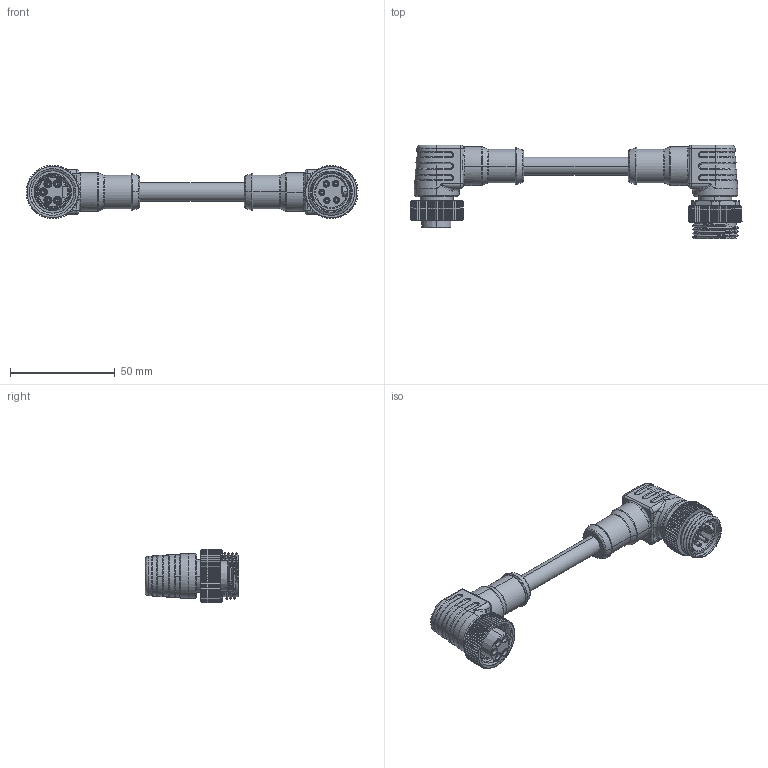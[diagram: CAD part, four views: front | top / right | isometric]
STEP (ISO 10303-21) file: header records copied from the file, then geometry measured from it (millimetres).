
FILE_DESCRIPTION (( 'STEP AP203' ), '1' );
FILE_NAME ('0PI101-XXX.STEP', '2023-11-17T07:31:56', ( 'ADMIN' ), ( '' ), 'SwSTEP 2.0', 'SolidWorks 2016', '' );
FILE_SCHEMA (( 'CONFIG_CONTROL_DESIGN' ));
Length unit declared in the file: millimetre
Products named in the file (1): 0PI101-XXX
Bounding box: 158.49 x 44.7 x 25.5 mm (x, y, z)
Volume: 45524 mm3; surface area: 19994.4 mm2
Topology: 1 solids, 2 shells, 1350 faces, 3254 edges, 1915 vertices
Faces by surface type: cone 464, plane 434, cylinder 303, bspline 134, torus 15
Entity records: 89776 total; most frequent: CARTESIAN_POINT 60593, ORIENTED_EDGE 6488, DIRECTION 5650, EDGE_CURVE 3244, AXIS2_PLACEMENT_3D 2353, VERTEX_POINT 1915, EDGE_LOOP 1407, FACE_OUTER_BOUND 1350
